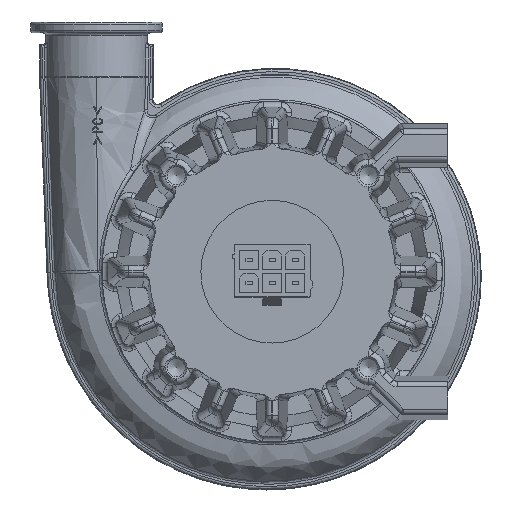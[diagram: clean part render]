
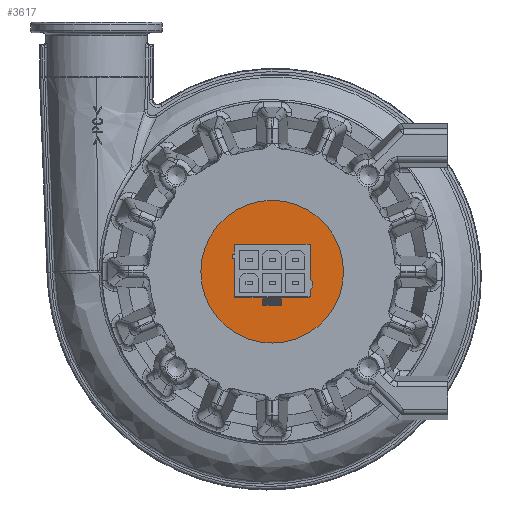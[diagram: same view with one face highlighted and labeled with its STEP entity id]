
A CAD part, front view. The second image highlights one B-rep face of the part: STEP entity #3617.
In plain terms, the highlighted planar face has unit normal (0, -1, 0).
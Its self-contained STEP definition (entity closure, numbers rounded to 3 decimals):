
#2912=CIRCLE('',#21608,13.);
#2913=CIRCLE('',#21609,0.4);
#3408=FACE_BOUND('',#6618,.T.);
#3409=FACE_BOUND('',#6619,.T.);
#3617=ADVANCED_FACE('',(#3408,#3409),#4939,.F.);
#4939=PLANE('',#21610);
#6618=EDGE_LOOP('',(#8241));
#6619=EDGE_LOOP('',(#8242,#8243,#8244,#8245,#8246,#8247,#8248,#8249,#8250,
#8251,#8252,#8253,#8254,#8255));
#8241=ORIENTED_EDGE('',*,*,#16559,.T.);
#8242=ORIENTED_EDGE('',*,*,#16547,.F.);
#8243=ORIENTED_EDGE('',*,*,#16558,.F.);
#8244=ORIENTED_EDGE('',*,*,#16556,.F.);
#8245=ORIENTED_EDGE('',*,*,#16554,.F.);
#8246=ORIENTED_EDGE('',*,*,#16553,.F.);
#8247=ORIENTED_EDGE('',*,*,#16560,.F.);
#8248=ORIENTED_EDGE('',*,*,#16561,.F.);
#8249=ORIENTED_EDGE('',*,*,#16562,.F.);
#8250=ORIENTED_EDGE('',*,*,#16563,.F.);
#8251=ORIENTED_EDGE('',*,*,#16564,.T.);
#8252=ORIENTED_EDGE('',*,*,#16565,.F.);
#8253=ORIENTED_EDGE('',*,*,#16566,.F.);
#8254=ORIENTED_EDGE('',*,*,#16567,.F.);
#8255=ORIENTED_EDGE('',*,*,#16568,.T.);
#14523=VERTEX_POINT('',#27294);
#14524=VERTEX_POINT('',#27296);
#14525=VERTEX_POINT('',#27298);
#14528=VERTEX_POINT('',#27306);
#14529=VERTEX_POINT('',#27310);
#14530=VERTEX_POINT('',#27314);
#14531=VERTEX_POINT('',#27320);
#14532=VERTEX_POINT('',#27322);
#14533=VERTEX_POINT('',#27324);
#14534=VERTEX_POINT('',#27326);
#14535=VERTEX_POINT('',#27328);
#14536=VERTEX_POINT('',#27330);
#14537=VERTEX_POINT('',#27332);
#14538=VERTEX_POINT('',#27334);
#14539=VERTEX_POINT('',#27336);
#16547=EDGE_CURVE('',#14524,#14525,#19759,.T.);
#16553=EDGE_CURVE('',#14528,#14523,#19765,.T.);
#16554=EDGE_CURVE('',#14523,#14529,#19766,.T.);
#16556=EDGE_CURVE('',#14529,#14530,#19768,.T.);
#16558=EDGE_CURVE('',#14530,#14524,#19770,.T.);
#16559=EDGE_CURVE('',#14531,#14531,#2912,.T.);
#16560=EDGE_CURVE('',#14532,#14528,#19771,.T.);
#16561=EDGE_CURVE('',#14533,#14532,#2913,.T.);
#16562=EDGE_CURVE('',#14534,#14533,#19772,.T.);
#16563=EDGE_CURVE('',#14535,#14534,#19773,.T.);
#16564=EDGE_CURVE('',#14535,#14536,#19774,.T.);
#16565=EDGE_CURVE('',#14537,#14536,#19775,.T.);
#16566=EDGE_CURVE('',#14538,#14537,#19776,.T.);
#16567=EDGE_CURVE('',#14539,#14538,#19777,.T.);
#16568=EDGE_CURVE('',#14539,#14525,#19778,.T.);
#19759=LINE('',#27297,#20736);
#19765=LINE('',#27307,#20742);
#19766=LINE('',#27309,#20743);
#19768=LINE('',#27313,#20745);
#19770=LINE('',#27317,#20747);
#19771=LINE('',#27321,#20748);
#19772=LINE('',#27325,#20749);
#19773=LINE('',#27327,#20750);
#19774=LINE('',#27329,#20751);
#19775=LINE('',#27331,#20752);
#19776=LINE('',#27333,#20753);
#19777=LINE('',#27335,#20754);
#19778=LINE('',#27337,#20755);
#20736=VECTOR('',#23283,1.);
#20742=VECTOR('',#23289,1.);
#20743=VECTOR('',#23292,1.);
#20745=VECTOR('',#23296,1.);
#20747=VECTOR('',#23300,1.);
#20748=VECTOR('',#23305,1.);
#20749=VECTOR('',#23308,1.);
#20750=VECTOR('',#23309,1.);
#20751=VECTOR('',#23310,1.);
#20752=VECTOR('',#23311,1.);
#20753=VECTOR('',#23312,1.);
#20754=VECTOR('',#23313,1.);
#20755=VECTOR('',#23314,1.);
#21608=AXIS2_PLACEMENT_3D('',#27319,#23303,#23304);
#21609=AXIS2_PLACEMENT_3D('',#27323,#23306,#23307);
#21610=AXIS2_PLACEMENT_3D('',#27338,#23315,#23316);
#23283=DIRECTION('',(1.,0.,0.));
#23289=DIRECTION('',(1.,0.,0.));
#23292=DIRECTION('',(0.,0.,-1.));
#23296=DIRECTION('',(1.,0.,0.));
#23300=DIRECTION('',(0.,0.,1.));
#23303=DIRECTION('',(0.,-1.,0.));
#23304=DIRECTION('',(0.,0.,1.));
#23305=DIRECTION('',(0.,0.,-1.));
#23306=DIRECTION('',(0.,-1.,0.));
#23307=DIRECTION('',(0.,0.,1.));
#23308=DIRECTION('',(0.,0.,-1.));
#23309=DIRECTION('',(-1.,0.,0.));
#23310=DIRECTION('',(0.,0.,-1.));
#23311=DIRECTION('',(-0.707,0.,0.707));
#23312=DIRECTION('',(0.,0.,1.));
#23313=DIRECTION('',(0.707,0.,0.707));
#23314=DIRECTION('',(0.,0.,-1.));
#23315=DIRECTION('',(0.,1.,0.));
#23316=DIRECTION('',(0.,0.,-1.));
#27294=CARTESIAN_POINT('',(76.563,-3.,-44.454));
#27296=CARTESIAN_POINT('',(90.163,-3.,-44.454));
#27297=CARTESIAN_POINT('',(90.263,-3.,-44.454));
#27298=CARTESIAN_POINT('',(90.263,-3.,-44.454));
#27306=CARTESIAN_POINT('',(76.463,-3.,-44.454));
#27307=CARTESIAN_POINT('',(90.263,-3.,-44.454));
#27309=CARTESIAN_POINT('',(76.563,-3.,-35.154));
#27310=CARTESIAN_POINT('',(76.563,-3.,-44.554));
#27313=CARTESIAN_POINT('',(76.563,-3.,-44.554));
#27314=CARTESIAN_POINT('',(90.163,-3.,-44.554));
#27317=CARTESIAN_POINT('',(90.163,-3.,-44.554));
#27319=CARTESIAN_POINT('',(83.363,-3.,-39.854));
#27320=CARTESIAN_POINT('',(83.363,-3.,-26.854));
#27321=CARTESIAN_POINT('',(76.463,-3.,-39.654));
#27322=CARTESIAN_POINT('',(76.463,-3.,-37.454));
#27323=CARTESIAN_POINT('',(76.463,-3.,-37.054));
#27324=CARTESIAN_POINT('',(76.463,-3.,-36.654));
#27325=CARTESIAN_POINT('',(76.463,-3.,-39.654));
#27326=CARTESIAN_POINT('',(76.463,-3.,-34.854));
#27327=CARTESIAN_POINT('',(90.263,-3.,-34.854));
#27328=CARTESIAN_POINT('',(90.263,-3.,-34.854));
#27329=CARTESIAN_POINT('',(90.263,-3.,-39.654));
#27330=CARTESIAN_POINT('',(90.263,-3.,-41.244));
#27331=CARTESIAN_POINT('',(90.263,-3.,-41.244));
#27332=CARTESIAN_POINT('',(90.663,-3.,-41.644));
#27333=CARTESIAN_POINT('',(90.663,-3.,-41.644));
#27334=CARTESIAN_POINT('',(90.663,-3.,-42.644));
#27335=CARTESIAN_POINT('',(90.663,-3.,-42.644));
#27336=CARTESIAN_POINT('',(90.263,-3.,-43.044));
#27337=CARTESIAN_POINT('',(90.263,-3.,-39.654));
#27338=CARTESIAN_POINT('',(70.363,-3.,-39.854));
